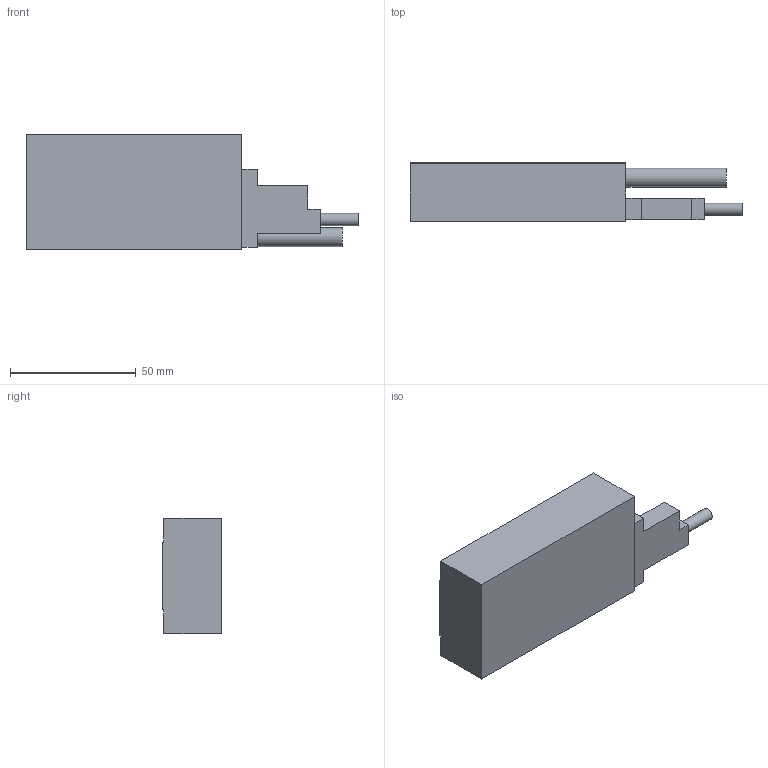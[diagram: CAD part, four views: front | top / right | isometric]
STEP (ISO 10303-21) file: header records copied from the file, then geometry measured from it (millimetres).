
FILE_DESCRIPTION(/* description */ ('STEP AP242 Edition 2','CAx-IF Rec.Pracs.---Representation and Presentation of Product Manufacturing Information (PMI)---4.0---2014-10-13','CAx-IF Rec.Pracs.---3D Tessellated Geometry---0.4---2014-09-14','2;1','CAx-IF Rec.Pracs.---User Defined Attributes---1.5---2016-08-15'),/* implementation_level */ '2;1');
FILE_NAME(/* name */ 'CMI20S',/* time_stamp */ '2026-04-13T00:53:54Z',/* author */ (''),/* organization */ (''),/* preprocessor_version */ 'ST-DEVELOPER v20',/* originating_system */ 'ONSHAPE BY PTC INC, 1.213',/* authorisation */ ' ');
FILE_SCHEMA (('AP242_MANAGED_MODEL_BASED_3D_ENGINEERING_MIM_LF { 1 0 10303 442 3 1 4 }'));
Length unit declared in the file: metre
Products named in the file (1): CMI20S
Bounding box: 132.2 x 23.5 x 46 mm (x, y, z)
Volume: 97929.1 mm3; surface area: 18556 mm2
Topology: 1 solids, 2 shells, 62 faces, 150 edges, 97 vertices
Faces by surface type: plane 33, cylinder 19, cone 10
Full cylindrical faces by diameter (mm): 2.5 x2, 3.3 x8, 3.4 x2, 4.9 x2, 7.5 x1
Entity records: 1628 total; most frequent: DIRECTION 278, CARTESIAN_POINT 271, ORIENTED_EDGE 226, EDGE_CURVE 113, FACE_BOUND 102, AXIS2_PLACEMENT_3D 102, VERTEX_POINT 95, EDGE_LOOP 92
